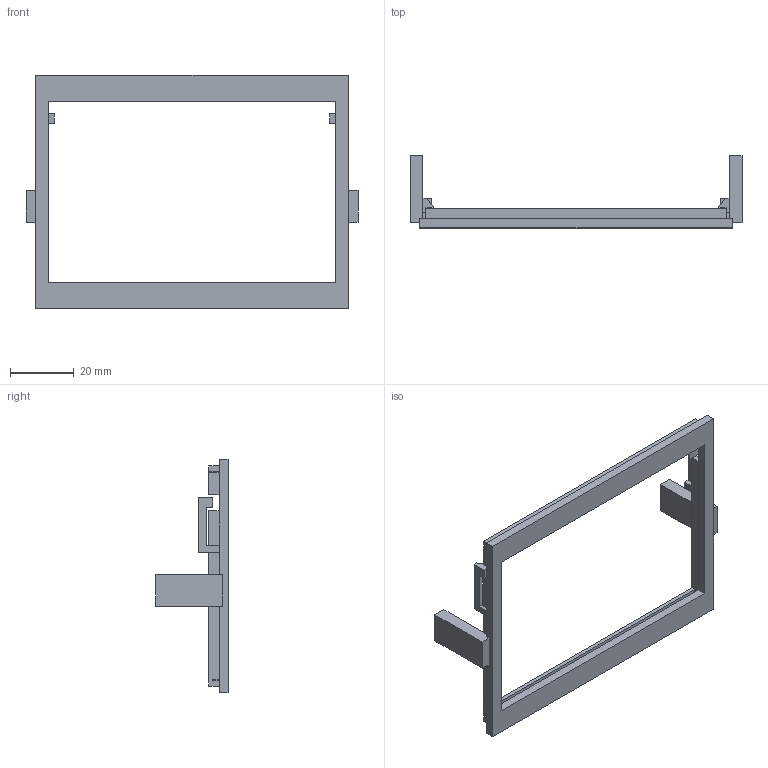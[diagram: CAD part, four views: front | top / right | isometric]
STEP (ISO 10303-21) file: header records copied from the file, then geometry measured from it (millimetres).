
FILE_DESCRIPTION(('Open CASCADE Model'),'2;1');
FILE_NAME('Open CASCADE Shape Model','2026-11-04T20:36:17',('Author'),( 'Open CASCADE'),'Open CASCADE STEP processor 7.8','Open CASCADE 7.8' ,'Unknown');
FILE_SCHEMA(('AUTOMOTIVE_DESIGN { 1 0 10303 214 1 1 1 1 }'));
Length unit declared in the file: millimetre
Products named in the file (1): Open CASCADE STEP translator 7.8 2
Bounding box: 104 x 22.6 x 73 mm (x, y, z)
Volume: 9684 mm3; surface area: 10109.6 mm2
Topology: 1 solids, 1 shells, 78 faces, 220 edges, 146 vertices
Faces by surface type: plane 78
Entity records: 5197 total; most frequent: CARTESIAN_POINT 1038, DIRECTION 665, LINE 507, VECTOR 507, ORIENTED_EDGE 440, PCURVE 440, DEFINITIONAL_REPRESENTATION 440, EDGE_CURVE 220
